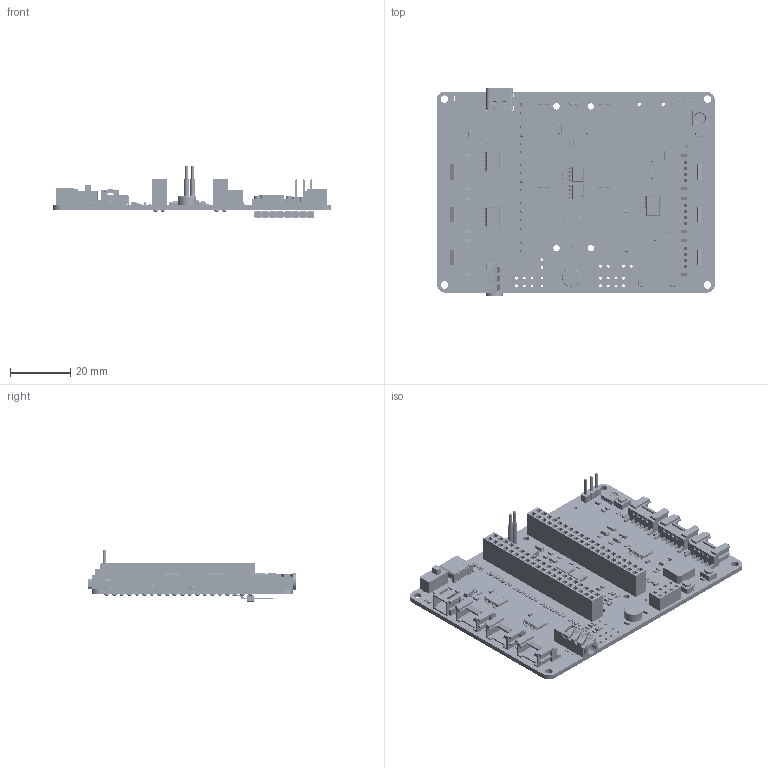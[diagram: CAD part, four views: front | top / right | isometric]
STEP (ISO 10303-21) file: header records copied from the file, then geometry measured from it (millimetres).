
FILE_DESCRIPTION(/* description */ (''),/* implementation_level */ '2;1');
FILE_NAME(/* name */ 'pico_expand_Mini rev2.1_step.prt.stp',/* time_stamp */ '2025-08-19T13:31:14+08:00',/* author */ (''),/* organization */ (''),/* preprocessor_version */ 'ST-DEVELOPER v16.7',/* originating_system */ 'SIEMENS PLM Software NX 12.0',/* authorisation */ '');
FILE_SCHEMA (('AUTOMOTIVE_DESIGN { 1 0 10303 214 3 1 1 1 }'));
Products named in the file (204): User_Library-LED_0603_R_Pad; User_Library-LED_0603_R_Pocket001; User_Library-LED_0603_R_Fillet; User_Library-LED_0603_R_Pad004; User_Library-LED_0603_R_Pocket002; Open CASCADE STEP translator 6.8 6.89.1.11; Open CASCADE STEP translator 6.8 6.89.1.10; Open CASCADE STEP translator 6.8 6.89.1.9; Open CASCADE STEP translator 6.8 6.89.1.8; Open CASCADE STEP translator 6.8 6.89.1.7; Open CASCADE STEP translator 6.8 6.89.1.6; Open CASCADE STEP translator 6.8 6.89.1.5; Open CASCADE STEP translator 6.8 6.89.1.4; Open CASCADE STEP translator 6.8 6.89.1.3; Open CASCADE STEP translator 6.8 6.89.1.2; Open CASCADE STEP translator 6.8 6.89.1.1; PJ-393-8_4; PJ-393-8_3; PJ-393-8_2; PJ-393-8_1; C_060326267; LOGO_; User_Library-0805_SMD_Capacitor; XEL4020; ws2812B-1; sip254p-3v2; sip254p-4v2; SOT23-3; txs0108epwr; SOT23-6-1; sd-MEM2055-00-190-01-A_revG; SOP8; User_Library-R0603-2; Open CASCADE STEP translator 6.8 6.1.1; paiz1; Ashanjiao; Aanjian2; Asankoupaizhne; Axinp; SOD123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
Assembly tree (356 placements, depth 4):
  pico_expand_Mini rev2.1_step
    Board
      Open CASCADE STEP translator 6.8 6.1.1
    R62
      User_Library-R0603-2
    R61
      User_Library-R0603-2
    U10
      SOP8
    R60
      User_Library-R0603-2
    R59
      User_Library-R0603-2
    R58
      User_Library-R0603-2
    R57
      User_Library-R0603-2
    R56
      User_Library-R0603-2
    R9
      User_Library-R0603-2
    C39
      C_0603
        LOGO_
        C_060326267
    D3
      SOD123
    D2
      SOD123
    R55
      User_Library-R0603-2
    C38
      C_0603
        LOGO_
        C_060326267
    C37
      C_0603
        LOGO_
        C_060326267
    C29
      C_0603
        LOGO_
        C_060326267
    C9
      C_0603
        LOGO_
        C_060326267
    CARD1
      sd-MEM2055-00-190-01-A_revG
    U8
      SOT23-6-1
    U7
      SOP8
    U4
      txs0108epwr
    U3
      txs0108epwr
    U2
      txs0108epwr
    R54
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Bounding box: 92.2 x 69.2 x 17.43 mm (x, y, z)
Volume: 15991.9 mm3; surface area: 30615.7 mm2
Topology: 1140 solids, 1140 shells, 19073 faces, 46590 edges, 30307 vertices
Faces by surface type: plane 9751, bspline 5963, cylinder 2776, sphere 380, torus 109, cone 90, revolution 4
Full cylindrical faces by diameter (mm): 0.7 x4, 0.85 x2, 0.9 x25, 1 x85, 1.1 x2, 1.2 x2, 1.5 x82, 2.1 x4, 2.5 x4, 6 x1
Entity records: 119508 total; most frequent: CARTESIAN_POINT 32515, ORIENTED_EDGE 15492, DIRECTION 15203, EDGE_CURVE 7746, LINE 5673, VECTOR 5673, VERTEX_POINT 5158, AXIS2_PLACEMENT_3D 4764
